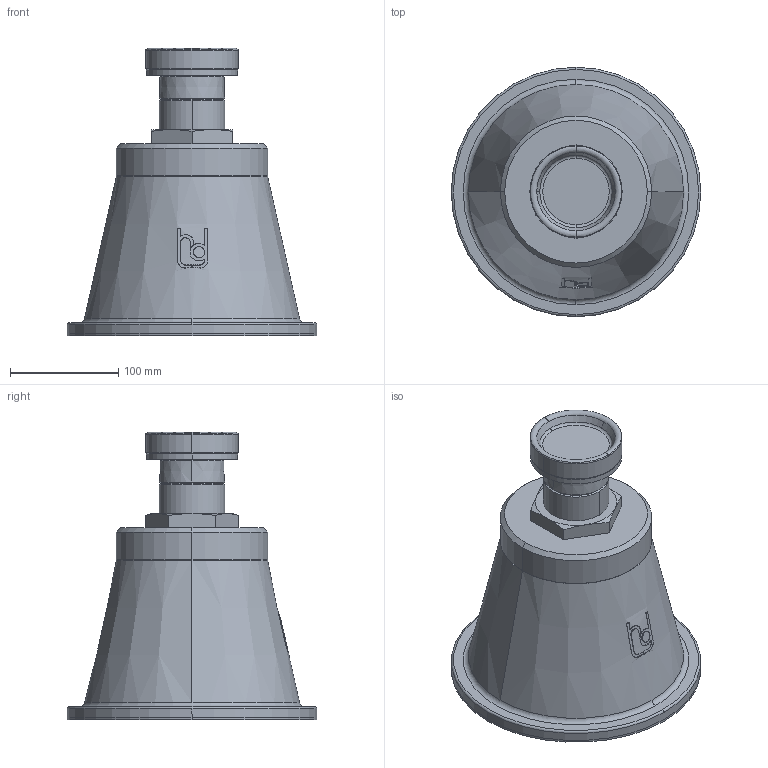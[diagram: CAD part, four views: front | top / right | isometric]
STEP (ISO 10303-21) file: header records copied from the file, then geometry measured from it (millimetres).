
FILE_DESCRIPTION(('STEP AP214'),'1');
FILE_NAME('RSRFN-09-V0.stp','2018-06-29T13:22:01',(' '),(' '),'Spatial InterOp 3D',' ',' ');
FILE_SCHEMA(('automotive_design'));
Length unit declared in the file: millimetre
Products named in the file (6): 1; 2; 3; 4; 5; 6
Bounding box: 230 x 230 x 264.99 mm (x, y, z)
Volume: 4686970.6 mm3; surface area: 348696.5 mm2
Topology: 6 solids, 6 shells, 121 faces, 292 edges, 188 vertices
Faces by surface type: cylinder 40, plane 40, cone 27, torus 14
Entity records: 5028 total; most frequent: CARTESIAN_POINT 1065, DIRECTION 639, ORIENTED_EDGE 584, EDGE_CURVE 292, AXIS2_PLACEMENT_3D 262, VERTEX_POINT 188, EDGE_LOOP 128, STYLED_ITEM 127
